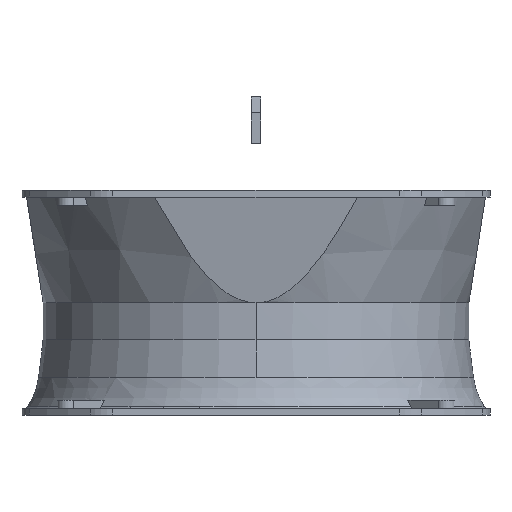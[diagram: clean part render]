
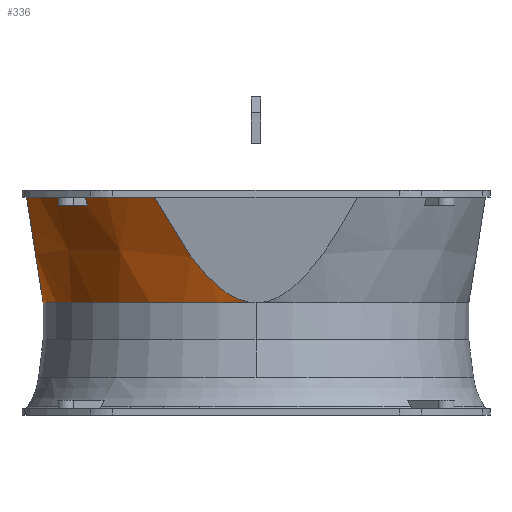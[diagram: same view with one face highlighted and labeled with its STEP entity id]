
A CAD part, front view. The second image highlights one B-rep face of the part: STEP entity #336.
In plain terms, the highlighted conical face has half-angle 19.745 degrees and reference radius 123.86 mm.
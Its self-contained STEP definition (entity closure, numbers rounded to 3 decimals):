
#336 = ADVANCED_FACE( '', ( #878 ), #879, .T. );
#878 = FACE_OUTER_BOUND( '', #1523, .T. );
#879 = CONICAL_SURFACE( '', #1524, 123.86, 0.345 );
#1523 = EDGE_LOOP( '', ( #3490, #3491, #3492, #3493, #3494, #3495, #3496, #3497 ) );
#1524 = AXIS2_PLACEMENT_3D( '', #3498, #3499, #3500 );
#3490 = ORIENTED_EDGE( '', *, *, #4839, .T. );
#3491 = ORIENTED_EDGE( '', *, *, #4849, .T. );
#3492 = ORIENTED_EDGE( '', *, *, #4843, .T. );
#3493 = ORIENTED_EDGE( '', *, *, #4850, .F. );
#3494 = ORIENTED_EDGE( '', *, *, #4851, .F. );
#3495 = ORIENTED_EDGE( '', *, *, #4630, .T. );
#3496 = ORIENTED_EDGE( '', *, *, #4852, .F. );
#3497 = ORIENTED_EDGE( '', *, *, #4853, .F. );
#3498 = CARTESIAN_POINT( '', ( 0., 0., -31.75 ) );
#3499 = DIRECTION( '', ( 0., 0., 1. ) );
#3500 = DIRECTION( '', ( 0., 1., 0. ) );
#4630 = EDGE_CURVE( '', #5766, #5241, #5767, .T. );
#4839 = EDGE_CURVE( '', #6077, #6078, #6079, .T. );
#4843 = EDGE_CURVE( '', #6085, #6086, #6087, .T. );
#4849 = EDGE_CURVE( '', #6078, #6085, #6095, .T. );
#4850 = EDGE_CURVE( '', #6096, #6086, #6097, .T. );
#4851 = EDGE_CURVE( '', #5766, #6096, #6098, .T. );
#4852 = EDGE_CURVE( '', #6099, #5241, #6100, .T. );
#4853 = EDGE_CURVE( '', #6077, #6099, #6101, .T. );
#5241 = VERTEX_POINT( '', #6777 );
#5766 = VERTEX_POINT( '', #7658 );
#5767 = CIRCLE( '', #7659, 113.72 );
#6077 = VERTEX_POINT( '', #8249 );
#6078 = VERTEX_POINT( '', #8250 );
#6079 = ( B_SPLINE_CURVE( 2, ( #8252, #8253, #8254 ), .UNSPECIFIED., .F., .F. )B_SPLINE_CURVE_WITH_KNOTS( ( 3, 3 ), ( 0., 4.781 ), .UNSPECIFIED. )RATIONAL_B_SPLINE_CURVE( ( 1., 1., 1. ) )BOUNDED_CURVE(  )REPRESENTATION_ITEM( '' )GEOMETRIC_REPRESENTATION_ITEM(  )CURVE(  ) );
#6085 = VERTEX_POINT( '', #8269 );
#6086 = VERTEX_POINT( '', #8270 );
#6087 = ( B_SPLINE_CURVE( 2, ( #8272, #8273, #8274 ), .UNSPECIFIED., .F., .F. )B_SPLINE_CURVE_WITH_KNOTS( ( 3, 3 ), ( 0., 4.781 ), .UNSPECIFIED. )RATIONAL_B_SPLINE_CURVE( ( 1., 1., 1. ) )BOUNDED_CURVE(  )REPRESENTATION_ITEM( '' )GEOMETRIC_REPRESENTATION_ITEM(  )CURVE(  ) );
#6095 = CIRCLE( '', #8291, 132.385 );
#6096 = VERTEX_POINT( '', #8292 );
#6097 = CIRCLE( '', #8293, 134. );
#6098 = ( B_SPLINE_CURVE( 2, ( #8295, #8296, #8297 ), .UNSPECIFIED., .F., .F. )B_SPLINE_CURVE_WITH_KNOTS( ( 3, 3 ), ( 80.975, 161.951 ), .UNSPECIFIED. )RATIONAL_B_SPLINE_CURVE( ( 1., 1.062, 1. ) )BOUNDED_CURVE(  )REPRESENTATION_ITEM( '' )GEOMETRIC_REPRESENTATION_ITEM(  )CURVE(  ) );
#6099 = VERTEX_POINT( '', #8304 );
#6100 = ( B_SPLINE_CURVE( 2, ( #8306, #8307, #8308 ), .UNSPECIFIED., .F., .F. )B_SPLINE_CURVE_WITH_KNOTS( ( 3, 3 ), ( 0., 80.975 ), .UNSPECIFIED. )RATIONAL_B_SPLINE_CURVE( ( 1., 1.062, 1. ) )BOUNDED_CURVE(  )REPRESENTATION_ITEM( '' )GEOMETRIC_REPRESENTATION_ITEM(  )CURVE(  ) );
#6101 = CIRCLE( '', #8315, 134. );
#6777 = CARTESIAN_POINT( '', ( 0., -113.72, -60. ) );
#7658 = CARTESIAN_POINT( '', ( -113.72, 0., -60. ) );
#7659 = AXIS2_PLACEMENT_3D( '', #9715, #9716, #9717 );
#8249 = CARTESIAN_POINT( '', ( -91.151, -98.222, -3.5 ) );
#8250 = CARTESIAN_POINT( '', ( -90.008, -97.079, -8. ) );
#8252 = CARTESIAN_POINT( '', ( -91.151, -98.222, -3.5 ) );
#8253 = CARTESIAN_POINT( '', ( -90.576, -97.647, -5.764 ) );
#8254 = CARTESIAN_POINT( '', ( -90.008, -97.079, -8. ) );
#8269 = CARTESIAN_POINT( '', ( -97.079, -90.008, -8. ) );
#8270 = CARTESIAN_POINT( '', ( -98.222, -91.151, -3.5 ) );
#8272 = CARTESIAN_POINT( '', ( -97.079, -90.008, -8. ) );
#8273 = CARTESIAN_POINT( '', ( -97.647, -90.576, -5.764 ) );
#8274 = CARTESIAN_POINT( '', ( -98.222, -91.151, -3.5 ) );
#8291 = AXIS2_PLACEMENT_3D( '', #10059, #10060, #10061 );
#8292 = CARTESIAN_POINT( '', ( -122.563, -54.169, -3.5 ) );
#8293 = AXIS2_PLACEMENT_3D( '', #10062, #10063, #10064 );
#8295 = CARTESIAN_POINT( '', ( -113.72, 0., -60. ) );
#8296 = CARTESIAN_POINT( '', ( -113.72, -24.01, -60. ) );
#8297 = CARTESIAN_POINT( '', ( -122.563, -54.169, -3.5 ) );
#8304 = CARTESIAN_POINT( '', ( -54.169, -122.563, -3.5 ) );
#8306 = CARTESIAN_POINT( '', ( -54.169, -122.563, -3.5 ) );
#8307 = CARTESIAN_POINT( '', ( -24.01, -113.72, -60. ) );
#8308 = CARTESIAN_POINT( '', ( 0., -113.72, -60. ) );
#8315 = AXIS2_PLACEMENT_3D( '', #10065, #10066, #10067 );
#9715 = CARTESIAN_POINT( '', ( 0., 0., -60. ) );
#9716 = DIRECTION( '', ( 0., 0., 1. ) );
#9717 = DIRECTION( '', ( 0., 1., 0. ) );
#10059 = CARTESIAN_POINT( '', ( 0., 0., -8. ) );
#10060 = DIRECTION( '', ( 0., 0., -1. ) );
#10061 = DIRECTION( '', ( 0., 1., 0. ) );
#10062 = CARTESIAN_POINT( '', ( 0., 0., -3.5 ) );
#10063 = DIRECTION( '', ( 0., 0., 1. ) );
#10064 = DIRECTION( '', ( 0., 1., 0. ) );
#10065 = CARTESIAN_POINT( '', ( 0., 0., -3.5 ) );
#10066 = DIRECTION( '', ( 0., 0., 1. ) );
#10067 = DIRECTION( '', ( 0., 1., 0. ) );
